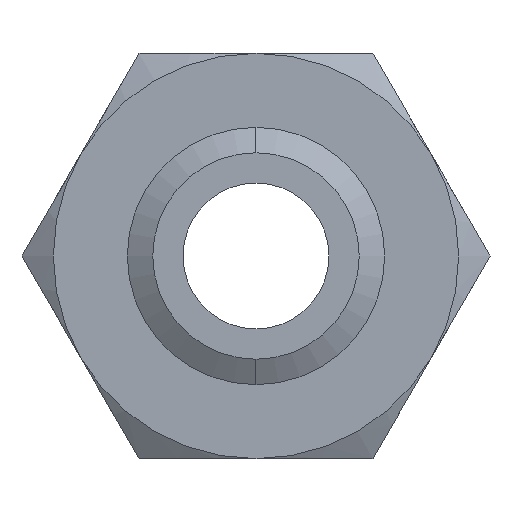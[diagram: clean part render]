
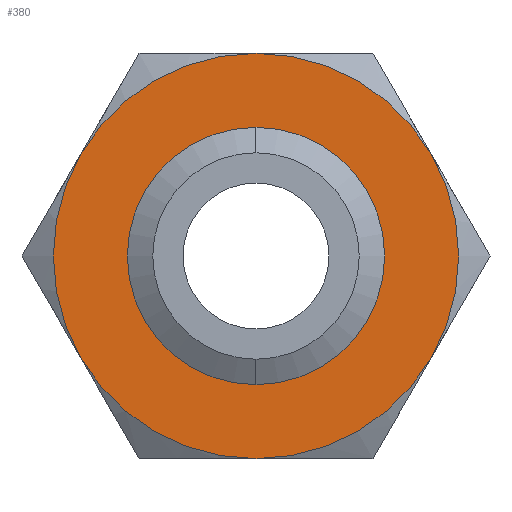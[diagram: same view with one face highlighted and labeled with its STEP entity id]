
A CAD part, front view. The second image highlights one B-rep face of the part: STEP entity #380.
In plain terms, the highlighted planar face has unit normal (0, -1, 0).
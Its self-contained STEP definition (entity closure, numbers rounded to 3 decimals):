
#309 = EDGE_LOOP ( 'NONE', ( #386, #310, #378, #365, #363, #361 ) ) ;
#310 = ORIENTED_EDGE ( 'NONE', *, *, #311, .F. ) ;
#311 = EDGE_CURVE ( 'NONE', #316, #383, #1092, .T. ) ;
#313 = VERTEX_POINT ( 'NONE', #1143 ) ;
#316 = VERTEX_POINT ( 'NONE', #1138 ) ;
#354 = VERTEX_POINT ( 'NONE', #1243 ) ;
#355 = EDGE_CURVE ( 'NONE', #354, #379, #1240, .T. ) ;
#356 = ORIENTED_EDGE ( 'NONE', *, *, #1931, .F. ) ;
#357 = ORIENTED_EDGE ( 'NONE', *, *, #358, .F. ) ;
#358 = EDGE_CURVE ( 'NONE', #1929, #1942, #1234, .T. ) ;
#359 = VERTEX_POINT ( 'NONE', #1235 ) ;
#360 = EDGE_LOOP ( 'NONE', ( #356, #357 ) ) ;
#361 = ORIENTED_EDGE ( 'NONE', *, *, #362, .F. ) ;
#362 = EDGE_CURVE ( 'NONE', #313, #359, #1229, .T. ) ;
#363 = ORIENTED_EDGE ( 'NONE', *, *, #364, .F. ) ;
#364 = EDGE_CURVE ( 'NONE', #359, #354, #1224, .T. ) ;
#365 = ORIENTED_EDGE ( 'NONE', *, *, #355, .F. ) ;
#377 = EDGE_CURVE ( 'NONE', #379, #316, #1257, .T. ) ;
#378 = ORIENTED_EDGE ( 'NONE', *, *, #377, .F. ) ;
#379 = VERTEX_POINT ( 'NONE', #1258 ) ;
#380 = ADVANCED_FACE ( 'NONE', ( #1252, #1251 ), #1250, .F. ) ;
#383 = VERTEX_POINT ( 'NONE', #1244 ) ;
#385 = EDGE_CURVE ( 'NONE', #383, #313, #1935, .T. ) ;
#386 = ORIENTED_EDGE ( 'NONE', *, *, #385, .F. ) ;
#1087 = CARTESIAN_POINT ( 'NONE',  ( 0., 0., 0. ) ) ;
#1088 = AXIS2_PLACEMENT_3D ( 'NONE', #1087, #1150, #1149 ) ;
#1092 = CIRCLE ( 'NONE', #1088, 25. ) ;
#1138 = CARTESIAN_POINT ( 'NONE',  ( -21.651, 0., 12.5 ) ) ;
#1143 = CARTESIAN_POINT ( 'NONE',  ( 21.651, 0., 12.5 ) ) ;
#1149 = DIRECTION ( 'NONE',  ( 0., 0., 1. ) ) ;
#1150 = DIRECTION ( 'NONE',  ( 0., 1., 0. ) ) ;
#1220 = DIRECTION ( 'NONE',  ( 0., 0., 1. ) ) ;
#1221 = DIRECTION ( 'NONE',  ( 0., 1., 0. ) ) ;
#1222 = CARTESIAN_POINT ( 'NONE',  ( 0., 0., 0. ) ) ;
#1223 = AXIS2_PLACEMENT_3D ( 'NONE', #1222, #1221, #1220 ) ;
#1224 = CIRCLE ( 'NONE', #1223, 25. ) ;
#1225 = DIRECTION ( 'NONE',  ( 0., 0., 1. ) ) ;
#1226 = DIRECTION ( 'NONE',  ( 0., 1., 0. ) ) ;
#1227 = CARTESIAN_POINT ( 'NONE',  ( 0., 0., 0. ) ) ;
#1228 = AXIS2_PLACEMENT_3D ( 'NONE', #1227, #1226, #1225 ) ;
#1229 = CIRCLE ( 'NONE', #1228, 25. ) ;
#1230 = DIRECTION ( 'NONE',  ( 0., 0., -1. ) ) ;
#1231 = DIRECTION ( 'NONE',  ( 0., -1., 0. ) ) ;
#1232 = CARTESIAN_POINT ( 'NONE',  ( 0., 0., 0. ) ) ;
#1233 = AXIS2_PLACEMENT_3D ( 'NONE', #1232, #1231, #1230 ) ;
#1234 = CIRCLE ( 'NONE', #1233, 12.731 ) ;
#1235 = CARTESIAN_POINT ( 'NONE',  ( 21.651, 0., -12.5 ) ) ;
#1236 = DIRECTION ( 'NONE',  ( 0., 0., 1. ) ) ;
#1237 = DIRECTION ( 'NONE',  ( 0., 1., 0. ) ) ;
#1238 = CARTESIAN_POINT ( 'NONE',  ( 0., 0., 0. ) ) ;
#1239 = AXIS2_PLACEMENT_3D ( 'NONE', #1238, #1237, #1236 ) ;
#1240 = CIRCLE ( 'NONE', #1239, 25. ) ;
#1243 = CARTESIAN_POINT ( 'NONE',  ( 0., 0., -25. ) ) ;
#1244 = CARTESIAN_POINT ( 'NONE',  ( 0., 0., 25. ) ) ;
#1246 = DIRECTION ( 'NONE',  ( 0., 0., 1. ) ) ;
#1247 = DIRECTION ( 'NONE',  ( 0., 1., 0. ) ) ;
#1248 = CARTESIAN_POINT ( 'NONE',  ( 14.434, 0., -25. ) ) ;
#1249 = AXIS2_PLACEMENT_3D ( 'NONE', #1248, #1247, #1246 ) ;
#1250 = PLANE ( 'NONE',  #1249 ) ;
#1251 = FACE_BOUND ( 'NONE', #360, .T. ) ;
#1252 = FACE_OUTER_BOUND ( 'NONE', #309, .T. ) ;
#1253 = DIRECTION ( 'NONE',  ( 0., 0., 1. ) ) ;
#1254 = DIRECTION ( 'NONE',  ( 0., 1., 0. ) ) ;
#1255 = CARTESIAN_POINT ( 'NONE',  ( 0., 0., 0. ) ) ;
#1256 = AXIS2_PLACEMENT_3D ( 'NONE', #1255, #1254, #1253 ) ;
#1257 = CIRCLE ( 'NONE', #1256, 25. ) ;
#1258 = CARTESIAN_POINT ( 'NONE',  ( -21.651, 0., -12.5 ) ) ;
#1632 = CARTESIAN_POINT ( 'NONE',  ( 0., 0., -12.731 ) ) ;
#1636 = DIRECTION ( 'NONE',  ( 0., 0., -1. ) ) ;
#1637 = DIRECTION ( 'NONE',  ( 0., -1., 0. ) ) ;
#1638 = CARTESIAN_POINT ( 'NONE',  ( 0., 0., 0. ) ) ;
#1639 = AXIS2_PLACEMENT_3D ( 'NONE', #1638, #1637, #1636 ) ;
#1640 = CIRCLE ( 'NONE', #1639, 12.731 ) ;
#1644 = CARTESIAN_POINT ( 'NONE',  ( 0., 0., 12.731 ) ) ;
#1922 = DIRECTION ( 'NONE',  ( 0., 0., 1. ) ) ;
#1929 = VERTEX_POINT ( 'NONE', #1644 ) ;
#1931 = EDGE_CURVE ( 'NONE', #1942, #1929, #1640, .T. ) ;
#1935 = CIRCLE ( 'NONE', #1939, 25. ) ;
#1938 = DIRECTION ( 'NONE',  ( 0., 1., 0. ) ) ;
#1939 = AXIS2_PLACEMENT_3D ( 'NONE', #1940, #1938, #1922 ) ;
#1940 = CARTESIAN_POINT ( 'NONE',  ( 0., 0., 0. ) ) ;
#1942 = VERTEX_POINT ( 'NONE', #1632 ) ;
